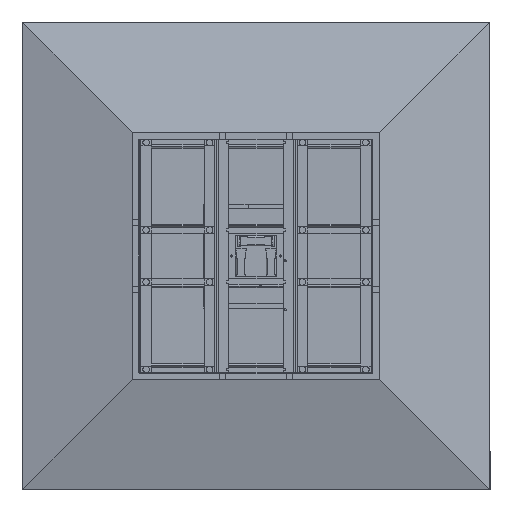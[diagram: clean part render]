
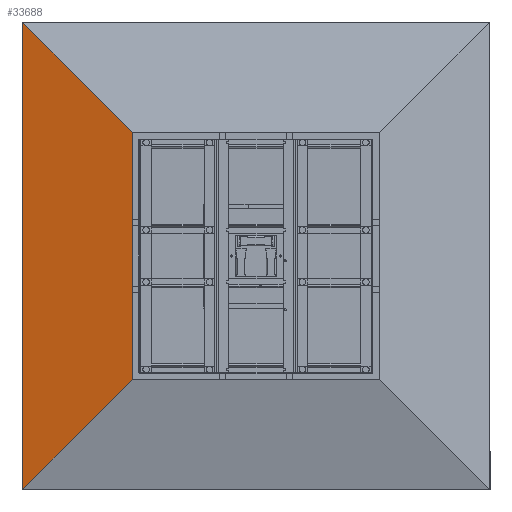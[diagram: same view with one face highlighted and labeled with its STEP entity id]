
A CAD part, front view. The second image highlights one B-rep face of the part: STEP entity #33688.
In plain terms, the highlighted planar face has unit normal (-0.259, -0.966, 0) as drawn and (0, -1, 0) by its records, which use the part's own axes.
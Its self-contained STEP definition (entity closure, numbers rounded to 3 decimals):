
#5495=PLANE('',#37298);
#6787=FACE_OUTER_BOUND('',#8585,.T.);
#8585=EDGE_LOOP('',(#26339,#26340,#26341,#26342));
#10616=LINE('',#51912,#13920);
#10621=LINE('',#51921,#13925);
#10627=LINE('',#51933,#13931);
#10628=LINE('',#51935,#13932);
#13920=VECTOR('',#41755,0.394);
#13925=VECTOR('',#41762,0.394);
#13931=VECTOR('',#41774,0.394);
#13932=VECTOR('',#41777,0.394);
#18060=VERTEX_POINT('',#51909);
#18061=VERTEX_POINT('',#51911);
#18064=VERTEX_POINT('',#51919);
#18067=VERTEX_POINT('',#51931);
#21164=EDGE_CURVE('',#18061,#18060,#10616,.T.);
#21169=EDGE_CURVE('',#18060,#18064,#10621,.T.);
#21175=EDGE_CURVE('',#18064,#18067,#10627,.T.);
#21176=EDGE_CURVE('',#18061,#18067,#10628,.T.);
#26339=ORIENTED_EDGE('',*,*,#21164,.T.);
#26340=ORIENTED_EDGE('',*,*,#21169,.T.);
#26341=ORIENTED_EDGE('',*,*,#21175,.T.);
#26342=ORIENTED_EDGE('',*,*,#21176,.F.);
#33688=ADVANCED_FACE('',(#6787),#5495,.F.);
#37298=AXIS2_PLACEMENT_3D('',#51936,#41778,#41779);
#41755=DIRECTION('',(0.695,0.,0.719));
#41762=DIRECTION('',(-1.,0.,0.));
#41774=DIRECTION('',(0.695,0.,-0.719));
#41777=DIRECTION('',(-1.,0.,0.));
#41778=DIRECTION('center_axis',(0.,1.,0.));
#41779=DIRECTION('ref_axis',(0.,0.,1.));
#51909=CARTESIAN_POINT('',(72.75,0.,-0.032));
#51911=CARTESIAN_POINT('',(55.878,0.,-17.5));
#51912=CARTESIAN_POINT('',(57.688,0.,-15.626));
#51919=CARTESIAN_POINT('',(1.,0.,-0.032));
#51921=CARTESIAN_POINT('',(55.313,0.,-0.032));
#51931=CARTESIAN_POINT('',(17.872,0.,-17.5));
#51933=CARTESIAN_POINT('',(16.062,0.,-15.626));
#51935=CARTESIAN_POINT('',(73.75,0.,-17.5));
#51936=CARTESIAN_POINT('Origin',(36.875,0.,-8.75));
